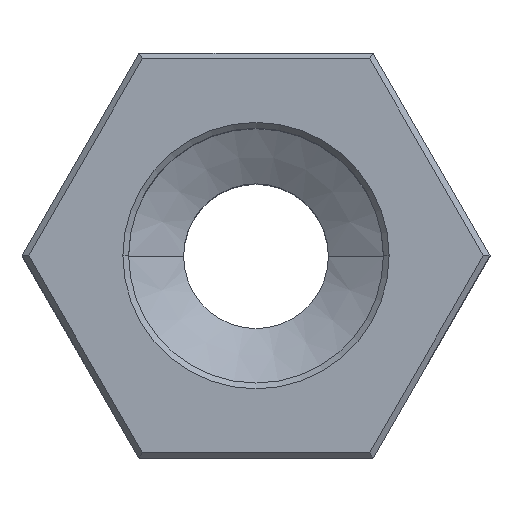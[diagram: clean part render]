
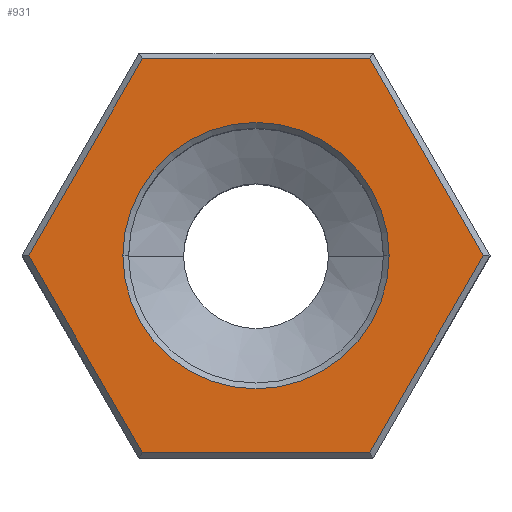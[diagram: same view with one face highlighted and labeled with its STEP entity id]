
A CAD part, top view. The second image highlights one B-rep face of the part: STEP entity #931.
In plain terms, the highlighted planar face has unit normal (0, 0, 1).
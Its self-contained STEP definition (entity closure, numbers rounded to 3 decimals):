
#10 = DIRECTION ( 'NONE',  ( 0.5, -0.866, 0. ) ) ;
#24 = VECTOR ( 'NONE', #10, 1000. ) ;
#26 = ORIENTED_EDGE ( 'NONE', *, *, #848, .T. ) ;
#27 = CARTESIAN_POINT ( 'NONE',  ( 0., 0., 14. ) ) ;
#29 = EDGE_LOOP ( 'NONE', ( #505, #466, #26, #651, #261, #697 ) ) ;
#71 = ORIENTED_EDGE ( 'NONE', *, *, #908, .T. ) ;
#89 = CARTESIAN_POINT ( 'NONE',  ( 0., 0., 14. ) ) ;
#93 = CARTESIAN_POINT ( 'NONE',  ( -4.6, 0., 14. ) ) ;
#107 = EDGE_CURVE ( 'NONE', #955, #570, #214, .T. ) ;
#110 = VERTEX_POINT ( 'NONE', #224 ) ;
#112 = LINE ( 'NONE', #415, #793 ) ;
#161 = ORIENTED_EDGE ( 'NONE', *, *, #461, .T. ) ;
#179 = FACE_BOUND ( 'NONE', #634, .T. ) ;
#180 = DIRECTION ( 'NONE',  ( -0.5, 0.866, 0. ) ) ;
#214 = LINE ( 'NONE', #302, #238 ) ;
#224 = CARTESIAN_POINT ( 'NONE',  ( 3.926, 6.8, 14. ) ) ;
#232 = CIRCLE ( 'NONE', #394, 4.6 ) ;
#238 = VECTOR ( 'NONE', #678, 1000. ) ;
#261 = ORIENTED_EDGE ( 'NONE', *, *, #637, .T. ) ;
#302 = CARTESIAN_POINT ( 'NONE',  ( 4.041, -6.8, 14. ) ) ;
#343 = AXIS2_PLACEMENT_3D ( 'NONE', #814, #350, #408 ) ;
#346 = PLANE ( 'NONE',  #574 ) ;
#350 = DIRECTION ( 'NONE',  ( 0., 0., -1. ) ) ;
#394 = AXIS2_PLACEMENT_3D ( 'NONE', #89, #902, #911 ) ;
#408 = DIRECTION ( 'NONE',  ( 1., 0., 0. ) ) ;
#413 = DIRECTION ( 'NONE',  ( 1., 0., 0. ) ) ;
#415 = CARTESIAN_POINT ( 'NONE',  ( 3.868, 6.9, 14. ) ) ;
#419 = CARTESIAN_POINT ( 'NONE',  ( -3.926, 6.8, 14. ) ) ;
#422 = VERTEX_POINT ( 'NONE', #453 ) ;
#423 = CARTESIAN_POINT ( 'NONE',  ( -3.926, -6.8, 14. ) ) ;
#451 = LINE ( 'NONE', #599, #881 ) ;
#453 = CARTESIAN_POINT ( 'NONE',  ( 4.6, 0., 14. ) ) ;
#461 = EDGE_CURVE ( 'NONE', #422, #629, #232, .T. ) ;
#466 = ORIENTED_EDGE ( 'NONE', *, *, #107, .T. ) ;
#478 = LINE ( 'NONE', #772, #731 ) ;
#496 = EDGE_CURVE ( 'NONE', #536, #955, #676, .T. ) ;
#505 = ORIENTED_EDGE ( 'NONE', *, *, #496, .T. ) ;
#517 = EDGE_CURVE ( 'NONE', #747, #536, #451, .T. ) ;
#528 = CIRCLE ( 'NONE', #343, 4.6 ) ;
#533 = DIRECTION ( 'NONE',  ( -0.5, -0.866, 0. ) ) ;
#536 = VERTEX_POINT ( 'NONE', #826 ) ;
#561 = DIRECTION ( 'NONE',  ( 0., 0., 1. ) ) ;
#570 = VERTEX_POINT ( 'NONE', #614 ) ;
#574 = AXIS2_PLACEMENT_3D ( 'NONE', #27, #561, #413 ) ;
#592 = DIRECTION ( 'NONE',  ( 0.5, 0.866, 0. ) ) ;
#599 = CARTESIAN_POINT ( 'NONE',  ( -7.91, -0.1, 14. ) ) ;
#614 = CARTESIAN_POINT ( 'NONE',  ( 3.926, -6.8, 14. ) ) ;
#629 = VERTEX_POINT ( 'NONE', #93 ) ;
#634 = EDGE_LOOP ( 'NONE', ( #161, #71 ) ) ;
#637 = EDGE_CURVE ( 'NONE', #110, #747, #478, .T. ) ;
#651 = ORIENTED_EDGE ( 'NONE', *, *, #685, .T. ) ;
#676 = LINE ( 'NONE', #973, #24 ) ;
#678 = DIRECTION ( 'NONE',  ( 1., 0., 0. ) ) ;
#685 = EDGE_CURVE ( 'NONE', #850, #110, #112, .T. ) ;
#695 = DIRECTION ( 'NONE',  ( -1., 0., 0. ) ) ;
#697 = ORIENTED_EDGE ( 'NONE', *, *, #517, .T. ) ;
#707 = FACE_OUTER_BOUND ( 'NONE', #29, .T. ) ;
#727 = CARTESIAN_POINT ( 'NONE',  ( 7.852, 0., 14. ) ) ;
#731 = VECTOR ( 'NONE', #695, 1000. ) ;
#747 = VERTEX_POINT ( 'NONE', #419 ) ;
#772 = CARTESIAN_POINT ( 'NONE',  ( -4.041, 6.8, 14. ) ) ;
#778 = VECTOR ( 'NONE', #592, 1000. ) ;
#793 = VECTOR ( 'NONE', #180, 1000. ) ;
#797 = CARTESIAN_POINT ( 'NONE',  ( 7.91, 0.1, 14. ) ) ;
#814 = CARTESIAN_POINT ( 'NONE',  ( 0., 0., 14. ) ) ;
#826 = CARTESIAN_POINT ( 'NONE',  ( -7.852, 0., 14. ) ) ;
#848 = EDGE_CURVE ( 'NONE', #570, #850, #878, .T. ) ;
#850 = VERTEX_POINT ( 'NONE', #727 ) ;
#878 = LINE ( 'NONE', #797, #778 ) ;
#881 = VECTOR ( 'NONE', #533, 1000. ) ;
#902 = DIRECTION ( 'NONE',  ( 0., 0., -1. ) ) ;
#908 = EDGE_CURVE ( 'NONE', #629, #422, #528, .T. ) ;
#911 = DIRECTION ( 'NONE',  ( 1., 0., 0. ) ) ;
#931 = ADVANCED_FACE ( 'NONE', ( #707, #179 ), #346, .T. ) ;
#955 = VERTEX_POINT ( 'NONE', #423 ) ;
#973 = CARTESIAN_POINT ( 'NONE',  ( -3.868, -6.9, 14. ) ) ;
